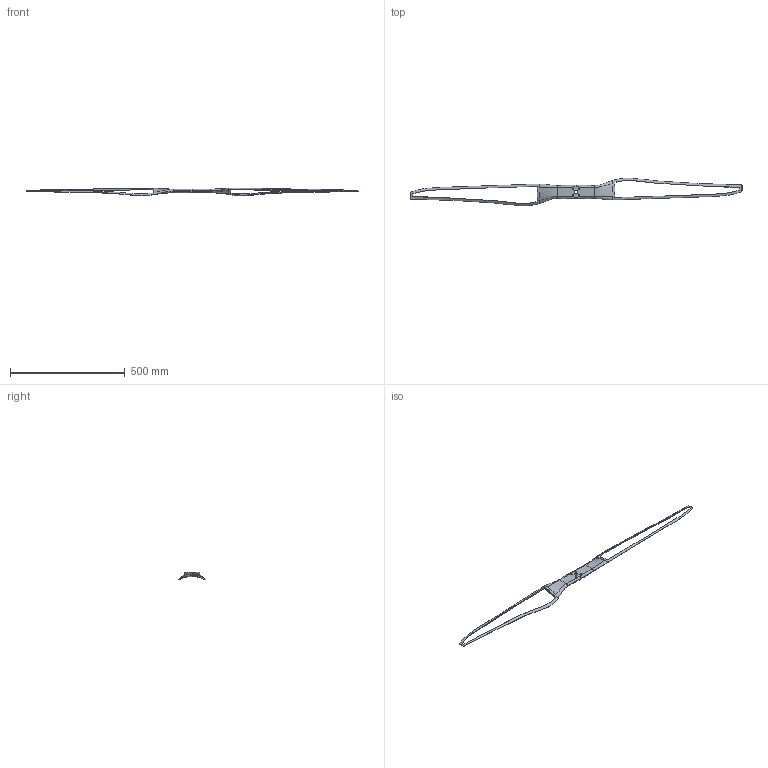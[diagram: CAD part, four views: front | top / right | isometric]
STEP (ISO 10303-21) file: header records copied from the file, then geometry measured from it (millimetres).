
FILE_DESCRIPTION(('CATIA V5 STEP Exchange','CAx-IF Rec.Pracs.--- Composite Materials ---3.4---2017-06-13'),'2;1');
FILE_NAME('D:\工作文件\catia修改后文件\57寸\一体桨\E57\E57x20-WKWF.stp','2026-01-29T06:26:01+00:00',('none'),('none'),'CATIA Version 5-6 Release 2020','CATIA V5 STEP AP203 v1','none');
FILE_SCHEMA(('CONFIG_CONTROL_DESIGN'));
Length unit declared in the file: millimetre
Products named in the file (1): Part5.1
Bounding box: 1447.8 x 120.95 x 33.19 mm (x, y, z)
Volume: 335957.9 mm3; surface area: 112079.5 mm2
Topology: 1 solids, 1 shells, 74 faces, 178 edges, 102 vertices
Faces by surface type: bspline 46, cylinder 16, plane 8, extrusion 4
Entity records: 16897 total; most frequent: CARTESIAN_POINT 15571, ORIENTED_EDGE 348, EDGE_CURVE 174, B_SPLINE_CURVE_WITH_KNOTS 130, VERTEX_POINT 102, DIRECTION 88, EDGE_LOOP 88, ADVANCED_FACE 74
